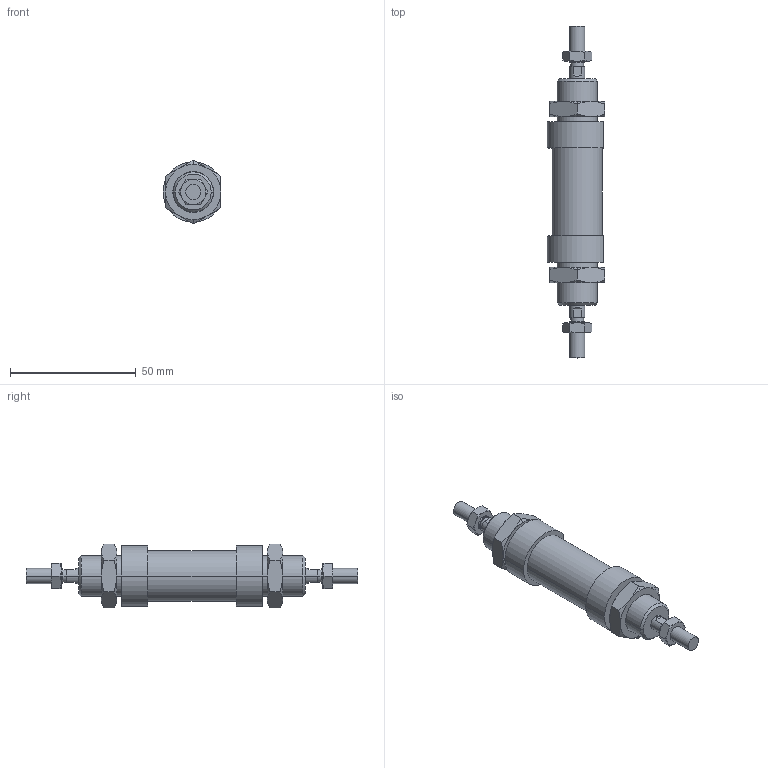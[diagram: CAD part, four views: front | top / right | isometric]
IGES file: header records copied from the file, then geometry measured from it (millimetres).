
Global section: file name: No Iges File Name specified; native system: AutoDesk Inventor R6.0; preprocessor: AutoDesk Inventor Iges Exporter R6.0; author: No Author specified; organization: No Organization specified; date: 20030403.072122; units: millimetre
Bounding box: 23 x 132 x 25.4 mm (x, y, z)
Volume: 31451.4 mm3; surface area: 13831.4 mm2
Topology: 6 solids, 6 shells, 180 faces, 388 edges, 228 vertices
Faces by surface type: cone 68, plane 56, bspline 30, cylinder 20, revolution 6
